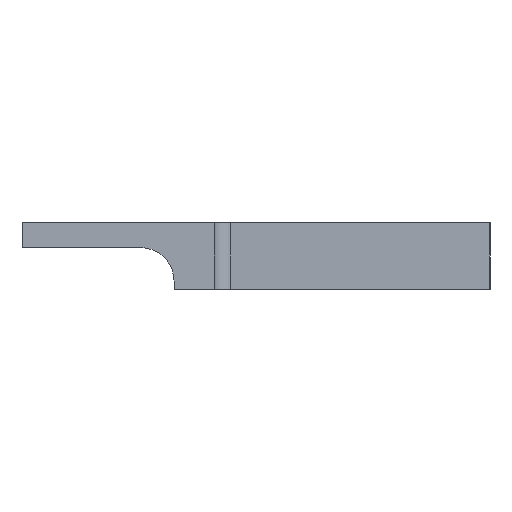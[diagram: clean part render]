
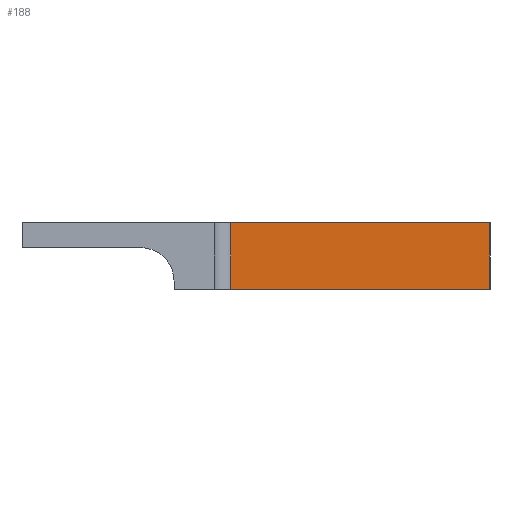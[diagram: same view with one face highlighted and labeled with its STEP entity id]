
A CAD part, front view. The second image highlights one B-rep face of the part: STEP entity #188.
In plain terms, the highlighted planar face has unit normal (0, -1, 0).
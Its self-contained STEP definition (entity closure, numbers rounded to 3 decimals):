
#188=ADVANCED_FACE('',(#235),#215,.F.);
#215=PLANE('',#849);
#235=FACE_OUTER_BOUND('',#284,.T.);
#284=EDGE_LOOP('',(#416,#417,#418,#419));
#416=ORIENTED_EDGE('',*,*,#593,.T.);
#417=ORIENTED_EDGE('',*,*,#656,.T.);
#418=ORIENTED_EDGE('',*,*,#621,.F.);
#419=ORIENTED_EDGE('',*,*,#655,.F.);
#521=VERTEX_POINT('',#1121);
#522=VERTEX_POINT('',#1123);
#546=VERTEX_POINT('',#1175);
#547=VERTEX_POINT('',#1177);
#593=EDGE_CURVE('',#522,#521,#691,.T.);
#621=EDGE_CURVE('',#546,#547,#705,.T.);
#655=EDGE_CURVE('',#522,#546,#716,.T.);
#656=EDGE_CURVE('',#521,#547,#717,.T.);
#691=LINE('',#1122,#750);
#705=LINE('',#1176,#764);
#716=LINE('',#1244,#775);
#717=LINE('',#1246,#776);
#750=VECTOR('',#901,1.);
#764=VECTOR('',#945,1.);
#775=VECTOR('',#1020,1.);
#776=VECTOR('',#1023,1.);
#849=AXIS2_PLACEMENT_3D('',#1247,#1024,#1025);
#901=DIRECTION('',(-1.,0.,0.));
#945=DIRECTION('',(-1.,0.,0.));
#1020=DIRECTION('',(0.,0.,-1.));
#1023=DIRECTION('',(0.,0.,-1.));
#1024=DIRECTION('',(0.,1.,0.));
#1025=DIRECTION('',(0.,0.,1.));
#1121=CARTESIAN_POINT('',(-32.25,20.,2.));
#1122=CARTESIAN_POINT('',(-23.75,20.,2.));
#1123=CARTESIAN_POINT('',(-24.5,20.,2.));
#1175=CARTESIAN_POINT('',(-24.5,20.,0.));
#1176=CARTESIAN_POINT('',(-23.75,20.,0.));
#1177=CARTESIAN_POINT('',(-32.25,20.,0.));
#1244=CARTESIAN_POINT('',(-24.5,20.,-0.203));
#1246=CARTESIAN_POINT('',(-32.25,20.,-0.203));
#1247=CARTESIAN_POINT('',(-23.75,20.,-0.203));
